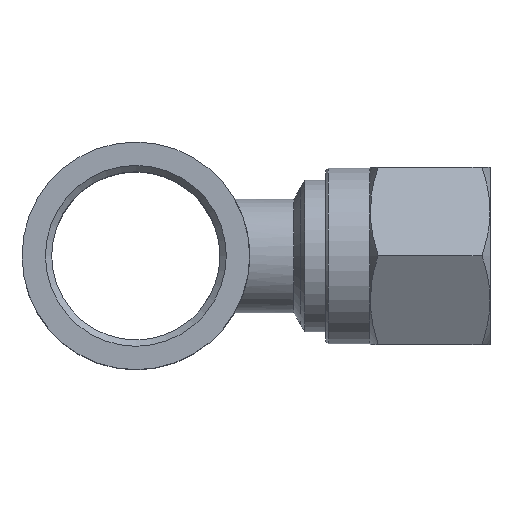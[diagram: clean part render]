
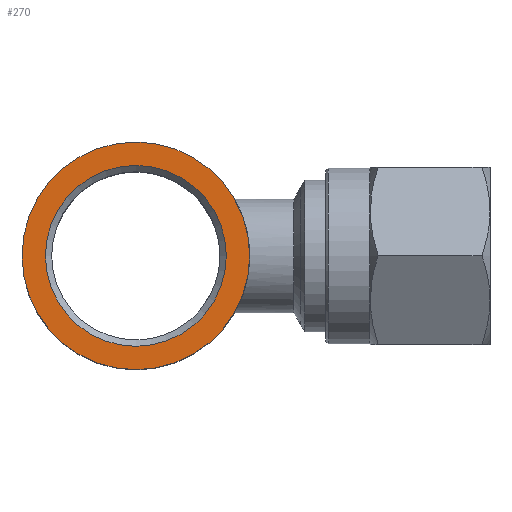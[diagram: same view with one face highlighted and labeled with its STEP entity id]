
A CAD part, top view. The second image highlights one B-rep face of the part: STEP entity #270.
In plain terms, the highlighted planar face has unit normal (0, 0, 1).
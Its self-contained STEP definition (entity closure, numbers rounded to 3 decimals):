
#270=ADVANCED_FACE('', (#280,#290), #300, .T.);
#2260=AXIS2_PLACEMENT_3D('Ax2Pl3d', #2270, #2280, #2290);
#2300=AXIS2_PLACEMENT_3D('Ax2Pl3d', #2310, #2320, #2330);
#2340=AXIS2_PLACEMENT_3D('Ax2Pl3d', #2350, #2360, #2370);
#2270=CARTESIAN_POINT('HicPkt', (25.472,16.256,
21.876));
#2310=CARTESIAN_POINT('HicPkt', (16.472,16.256,
21.876));
#19690=CARTESIAN_POINT('', (16.472,25.256,21.876));
#2350=CARTESIAN_POINT('HicPkt', (16.472,16.256,
21.876));
#19700=CARTESIAN_POINT('', (16.472,23.406,21.876));
#20260=CIRCLE('Circle', #2300, 9.);
#20270=CIRCLE('Circle', #2340, 7.15);
#2280=DIRECTION('Axis', (0.,0.,1.));
#2290=DIRECTION('RefDirection', (1.,0.,-0.));
#2320=DIRECTION('Axis', (0.,0.,1.));
#2330=DIRECTION('RefDirection', (1.,0.,-0.));
#2360=DIRECTION('Axis', (0.,0.,-1.));
#2370=DIRECTION('RefDirection', (-1.,-0.,0.));
#22880=EDGE_CURVE('', #22890, #22890, #20260, .T.);
#22900=EDGE_CURVE('', #22910, #22910, #20270, .T.);
#24130=EDGE_LOOP('Edge_loop', (#24140));
#24150=EDGE_LOOP('Edge_loop', (#24160));
#290=FACE_BOUND('', #24150, .T.);
#280=FACE_OUTER_BOUND('Face_outer_bound', #24130, .T.);
#24140=ORIENTED_EDGE('', *, *, #22880, .T.);
#24160=ORIENTED_EDGE('', *, *, #22900, .T.);
#300=PLANE('Plane', #2260);
#22890=VERTEX_POINT('', #19690);
#22910=VERTEX_POINT('', #19700);
